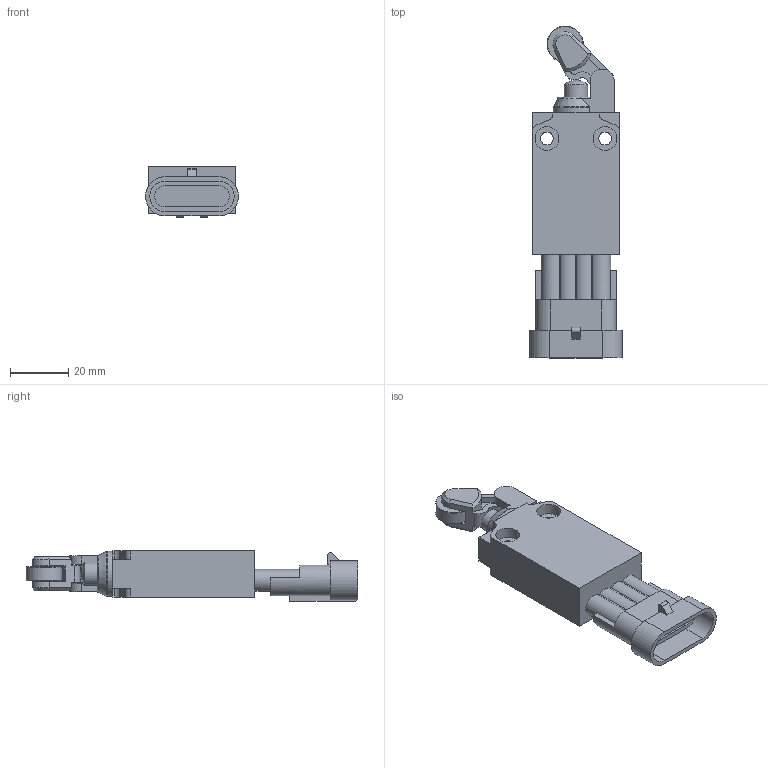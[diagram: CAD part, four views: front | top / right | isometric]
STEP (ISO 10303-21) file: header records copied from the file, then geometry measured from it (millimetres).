
FILE_DESCRIPTION(/* description */ (''),/* implementation_level */ '2;1');
FILE_NAME(/* name */ 'C:\Users\servizio.tecnico\Desktop\CADENAS\3D\EP1_STP\STP_EP1_G31A.stp',/* time_stamp */ '2017-09-04T09:51:05+02:00',/* author */ ('servizio.tecnico'),/* organization */ (''),/* preprocessor_version */ 'ST-DEVELOPER v16.1',/* originating_system */ 'Autodesk Inventor 2016',/* authorisation */ '');
FILE_SCHEMA (('AUTOMOTIVE_DESIGN { 1 0 10303 214 3 1 1 }'));
Length unit declared in the file: millimetre
Products named in the file (3): Product; EP1G31-A; BASE ASSI 
Assembly tree (2 placements, depth 3):
  BASE ASSI 
    EP1G31-A
      Product
Bounding box: 32 x 114.23 x 17.5 mm (x, y, z)
Volume: 32002.4 mm3; surface area: 14125.2 mm2
Topology: 5 solids, 5 shells, 201 faces, 525 edges, 345 vertices
Faces by surface type: plane 125, cylinder 66, cone 5, torus 4, sphere 1
Full cylindrical faces by diameter (mm): 4.4 x2, 7 x1, 7.8 x2, 7.95 x1, 8.05 x1, 8.2 x4, 12.5 x1
Entity records: 6359 total; most frequent: CARTESIAN_POINT 1109, DIRECTION 1061, ORIENTED_EDGE 1008, EDGE_CURVE 504, AXIS2_PLACEMENT_3D 361, VERTEX_POINT 340, LINE 339, VECTOR 339
